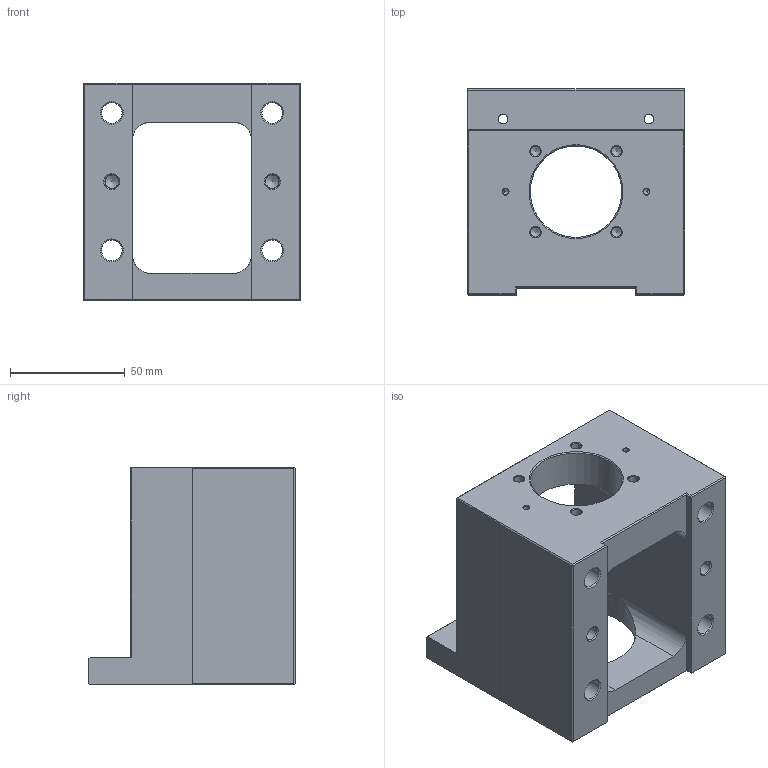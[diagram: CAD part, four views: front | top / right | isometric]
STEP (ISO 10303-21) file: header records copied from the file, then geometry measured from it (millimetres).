
FILE_DESCRIPTION(/* description */ (''),/* implementation_level */ '2;1');
FILE_NAME(/* name */ 'M80EP-FK15-H.stp',/* time_stamp */ '2017-08-17T16:16:14+08:00',/* author */ (''),/* organization */ (''),/* preprocessor_version */ 'ST-DEVELOPER v15',/* originating_system */ 'SIEMENS PLM Software NX 9.0',/* authorisation */ '');
FILE_SCHEMA (('CONFIG_CONTROL_DESIGN'));
Length unit declared in the file: millimetre
Products named in the file (1): MBH15-EP
Bounding box: 95 x 90 x 95 mm (x, y, z)
Volume: 333072.1 mm3; surface area: 67246.5 mm2
Topology: 1 solids, 1 shells, 125 faces, 339 edges, 217 vertices
Faces by surface type: plane 49, cone 41, cylinder 35
Full cylindrical faces by diameter (mm): 2.6 x2, 3.3 x4, 4.2 x4, 4.3 x4, 5.8 x2, 6 x2, 9 x4, 14 x4, 40 x1, 52 x1, 70 x1
Entity records: 3441 total; most frequent: CARTESIAN_POINT 656, DIRECTION 561, ORIENTED_EDGE 448, EDGE_CURVE 224, AXIS2_PLACEMENT_3D 221, EDGE_LOOP 218, FACE_BOUND 190, VERTEX_POINT 186
